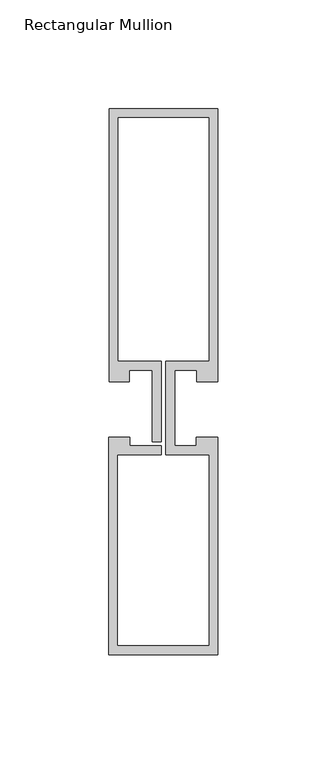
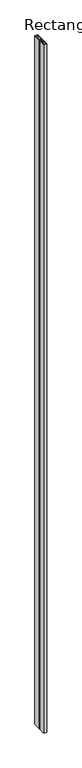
"""IFC4 building model written with IfcOpenShell, lengths in millimetres: member geometry, Rectangular Mullion : Reynaers_CW-50_Transom-Transom_125.5mm_Facecap-02D."""

from ifc_helpers import new_model, si_unit, frame, origin, place, context, project, spatial, polyline, outline, extrude, source, transform, mapped, element, save


def rectangular_mullion_25a7c6fc(model_context):
    return source(origin(), model_context, "Body", "SweptSolid", [
        extrude(outline(polyline([(25.1995941, -12.7331291), (25.1995941, -112.7331291), (-24.994845, -112.7331291), (-24.994845, -12.7331291), (-15.2996495, -12.7331291), (-15.2996495, -16.7331291), (-0.9004059, -16.7331291), (-0.9004059, -20.7331291), (-20.994845, -20.7331291), (-20.994845, -108.7331291), (21.1995941, -108.7331291), (21.1995941, -20.7331291), (1.2995941, -20.7331291), (1.2995941, 22.1331291), (21.1995941, 22.1331291), (21.1995941, 134.2331291), (-20.8004059, 134.2331291), (-20.8004059, 22.1331291), (-0.9004059, 22.1331291), (-0.9004059, -14.7331291), (-4.9004059, -14.7331291), (-4.9004059, 18.1331291), (-15.499, 18.1331291), (-15.499, 12.7331291), (-24.8004059, 12.7331291), (-24.8004059, 138.2331291), (25.1995941, 138.2331291), (25.1995941, 12.7331291), (15.499, 12.7331291), (15.499, 18.1331291), (5.2995941, 18.1331291), (5.2995941, -16.7331291), (15.2996495, -16.7331291), (15.2996495, -12.7331291), (25.1995941, -12.7331291)])), frame((0.0, 0.0, -12000.0), z_axis=(0.0, 0.0, 1.0), x_axis=(1.0, 0.0, 0.0)), (0.0, 0.0, 1.0), 12000.0),
    ])


if __name__ == "__main__":
    model = new_model("IFC4")
    model_context = context("Model", 3, world=origin())
    ifc_project = project(units=[si_unit("LENGTHUNIT", "METRE", prefix="MILLI")], contexts=[model_context])
    site = spatial("IfcSite", under=ifc_project)
    building = spatial("IfcBuilding", under=site)
    placement = place(None, origin())
    rectangular_mullion_shape = rectangular_mullion_25a7c6fc(model_context)
    element("IfcMember", 1, ObjectType="Rectangular Mullion : Reynaers_CW-50_Transom-Transom_125.5mm_Facecap-02D", at=placement, inside=building, context=model_context, shape_type="MappedRepresentation", body=[
        mapped(rectangular_mullion_shape, transform((0.0, 0.0, 0.0), x_axis=(1.0, 0.0, 0.0), y_axis=(0.0, 1.0, 0.0), z_axis=(0.0, 0.0, 1.0))),
    ])
    save(model, "model.ifc")
